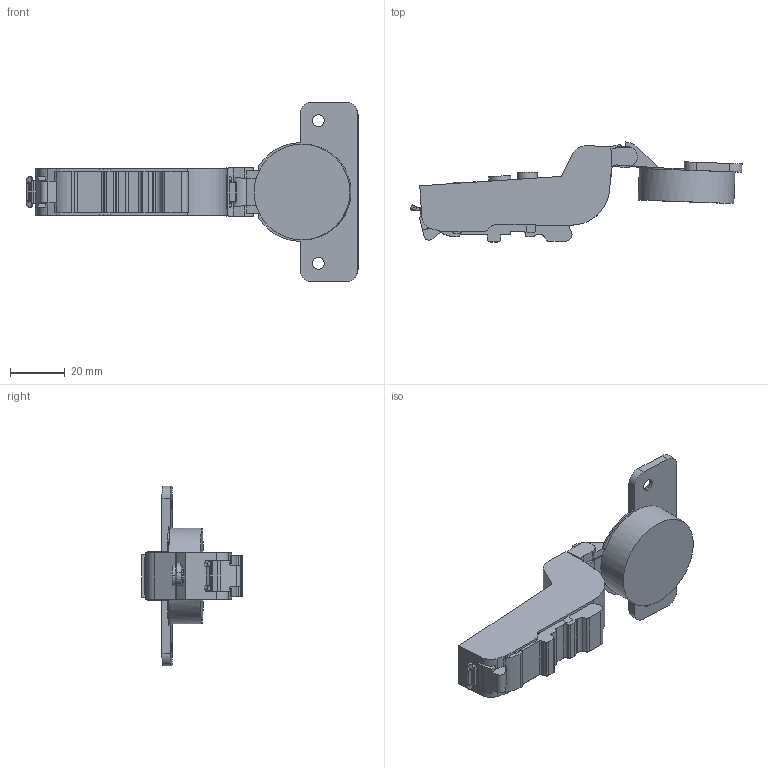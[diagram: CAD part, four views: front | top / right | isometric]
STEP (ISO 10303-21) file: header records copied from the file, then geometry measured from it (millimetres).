
FILE_DESCRIPTION (( 'STEP AP203' ), '1' );
FILE_NAME ('C81C817FAB DTC 3D OPEN.STEP', '2024-07-19T08:29:53', ( '微软用户' ), ( '微软中国' ), 'SwSTEP 2.0', 'SolidWorks 2021', '' );
FILE_SCHEMA (( 'CONFIG_CONTROL_DESIGN' ));
Length unit declared in the file: millimetre
Products named in the file (1): C81C817FAB DTC 3D OPEN
Bounding box: 121.02 x 36.47 x 65.6 mm (x, y, z)
Volume: 41933 mm3; surface area: 12742.5 mm2
Topology: 1 solids, 2 shells, 319 faces, 892 edges, 582 vertices
Faces by surface type: plane 144, cylinder 133, torus 26, bspline 12, cone 4
Entity records: 10663 total; most frequent: CARTESIAN_POINT 2387, ORIENTED_EDGE 1784, DIRECTION 1701, EDGE_CURVE 892, AXIS2_PLACEMENT_3D 600, VERTEX_POINT 582, LINE 501, VECTOR 501
